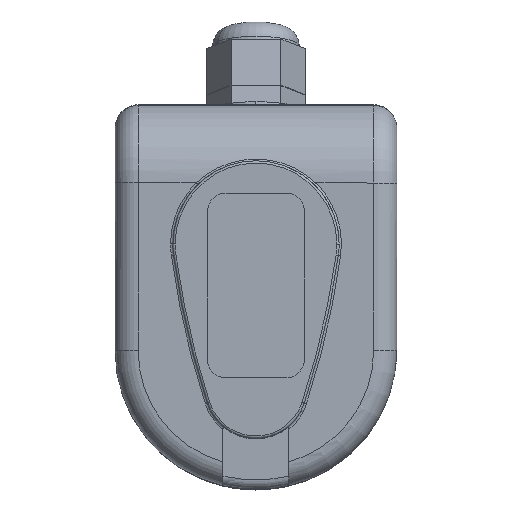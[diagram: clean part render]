
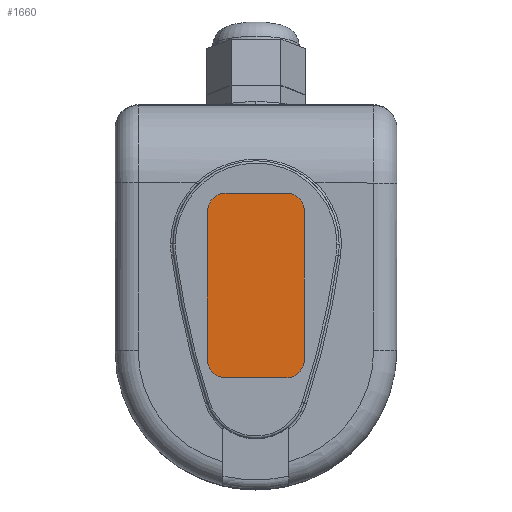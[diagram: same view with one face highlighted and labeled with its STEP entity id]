
A CAD part, front view. The second image highlights one B-rep face of the part: STEP entity #1660.
In plain terms, the highlighted planar face has unit normal (0, -1, 0) as drawn and (1, 0, 0) by its records, which use the part's own axes.
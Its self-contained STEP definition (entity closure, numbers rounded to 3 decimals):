
#311 = LINE ( 'NONE', #4715, #9197 ) ;
#379 = ORIENTED_EDGE ( 'NONE', *, *, #23059, .T. ) ;
#904 = AXIS2_PLACEMENT_3D ( 'NONE', #1098, #13590, #2869 ) ;
#1098 = CARTESIAN_POINT ( 'NONE',  ( 15.7, 55., -24. ) ) ;
#1625 = CARTESIAN_POINT ( 'NONE',  ( 15.7, 59., -37. ) ) ;
#1660 = ADVANCED_FACE ( 'NONE', ( #4020 ), #11415, .F. ) ;
#1780 = ORIENTED_EDGE ( 'NONE', *, *, #21817, .T. ) ;
#1852 = CARTESIAN_POINT ( 'NONE',  ( 15.7, 55., -41. ) ) ;
#2078 = CARTESIAN_POINT ( 'NONE',  ( 15.7, 55., -37. ) ) ;
#2211 = ORIENTED_EDGE ( 'NONE', *, *, #20150, .T. ) ;
#2538 = LINE ( 'NONE', #17293, #16283 ) ;
#2544 = CIRCLE ( 'NONE', #9981, 4. ) ;
#2869 = DIRECTION ( 'NONE',  ( 0., 0., 1. ) ) ;
#3794 = DIRECTION ( 'NONE',  ( 0., 0., 1. ) ) ;
#3876 = DIRECTION ( 'NONE',  ( 0., 0., 1. ) ) ;
#4020 = FACE_OUTER_BOUND ( 'NONE', #13308, .T. ) ;
#4715 = CARTESIAN_POINT ( 'NONE',  ( 15.7, 55., -41. ) ) ;
#5009 = EDGE_CURVE ( 'NONE', #16355, #18150, #2538, .T. ) ;
#5498 = ORIENTED_EDGE ( 'NONE', *, *, #14600, .T. ) ;
#5744 = VERTEX_POINT ( 'NONE', #22051 ) ;
#5922 = DIRECTION ( 'NONE',  ( 0., -1., 0. ) ) ;
#6485 = DIRECTION ( 'NONE',  ( 0., 1., 0. ) ) ;
#6641 = DIRECTION ( 'NONE',  ( 1., 0., 0. ) ) ;
#7177 = VERTEX_POINT ( 'NONE', #1625 ) ;
#7356 = CARTESIAN_POINT ( 'NONE',  ( 15.7, 23., -20. ) ) ;
#7853 = VERTEX_POINT ( 'NONE', #17253 ) ;
#8697 = CIRCLE ( 'NONE', #22697, 4. ) ;
#8703 = CARTESIAN_POINT ( 'NONE',  ( 15.7, 23., -24. ) ) ;
#9197 = VECTOR ( 'NONE', #6485, 1000. ) ;
#9369 = ORIENTED_EDGE ( 'NONE', *, *, #22286, .T. ) ;
#9862 = DIRECTION ( 'NONE',  ( 0., 0., -1. ) ) ;
#9981 = AXIS2_PLACEMENT_3D ( 'NONE', #2078, #14599, #3876 ) ;
#10510 = DIRECTION ( 'NONE',  ( 0., 0., -1. ) ) ;
#11415 = PLANE ( 'NONE',  #18933 ) ;
#12327 = CIRCLE ( 'NONE', #904, 4. ) ;
#13308 = EDGE_LOOP ( 'NONE', ( #20981, #21500, #5498, #1780, #2211, #379, #9369, #17764 ) ) ;
#13590 = DIRECTION ( 'NONE',  ( 1., 0., 0. ) ) ;
#14178 = DIRECTION ( 'NONE',  ( 0., 0., 1. ) ) ;
#14524 = CARTESIAN_POINT ( 'NONE',  ( 15.7, 59., -24. ) ) ;
#14599 = DIRECTION ( 'NONE',  ( 1., 0., 0. ) ) ;
#14600 = EDGE_CURVE ( 'NONE', #18150, #7853, #8697, .T. ) ;
#16283 = VECTOR ( 'NONE', #5922, 1000. ) ;
#16355 = VERTEX_POINT ( 'NONE', #16715 ) ;
#16394 = DIRECTION ( 'NONE',  ( -1., 0., 0. ) ) ;
#16715 = CARTESIAN_POINT ( 'NONE',  ( 15.7, 55., -20. ) ) ;
#17060 = CARTESIAN_POINT ( 'NONE',  ( 15.7, 19., -24. ) ) ;
#17137 = VECTOR ( 'NONE', #9862, 1000. ) ;
#17253 = CARTESIAN_POINT ( 'NONE',  ( 15.7, 19., -24. ) ) ;
#17293 = CARTESIAN_POINT ( 'NONE',  ( 15.7, 55., -20. ) ) ;
#17401 = CARTESIAN_POINT ( 'NONE',  ( 15.7, 23., -37. ) ) ;
#17745 = CARTESIAN_POINT ( 'NONE',  ( 15.7, 59., -24. ) ) ;
#17764 = ORIENTED_EDGE ( 'NONE', *, *, #22250, .T. ) ;
#18002 = VERTEX_POINT ( 'NONE', #17745 ) ;
#18150 = VERTEX_POINT ( 'NONE', #7356 ) ;
#18283 = VERTEX_POINT ( 'NONE', #20066 ) ;
#18933 = AXIS2_PLACEMENT_3D ( 'NONE', #21082, #16394, #14178 ) ;
#19176 = DIRECTION ( 'NONE',  ( 0., 0., 1. ) ) ;
#20066 = CARTESIAN_POINT ( 'NONE',  ( 15.7, 23., -41. ) ) ;
#20150 = EDGE_CURVE ( 'NONE', #5744, #18283, #21790, .T. ) ;
#20340 = AXIS2_PLACEMENT_3D ( 'NONE', #17401, #6641, #19176 ) ;
#20981 = ORIENTED_EDGE ( 'NONE', *, *, #21847, .T. ) ;
#21033 = VECTOR ( 'NONE', #3794, 1000. ) ;
#21082 = CARTESIAN_POINT ( 'NONE',  ( 15.7, 55., -24. ) ) ;
#21279 = DIRECTION ( 'NONE',  ( 1., 0., 0. ) ) ;
#21500 = ORIENTED_EDGE ( 'NONE', *, *, #5009, .T. ) ;
#21601 = LINE ( 'NONE', #14524, #21033 ) ;
#21790 = CIRCLE ( 'NONE', #20340, 4. ) ;
#21817 = EDGE_CURVE ( 'NONE', #7853, #5744, #21901, .T. ) ;
#21847 = EDGE_CURVE ( 'NONE', #18002, #16355, #12327, .T. ) ;
#21901 = LINE ( 'NONE', #17060, #17137 ) ;
#22051 = CARTESIAN_POINT ( 'NONE',  ( 15.7, 19., -37. ) ) ;
#22221 = VERTEX_POINT ( 'NONE', #1852 ) ;
#22250 = EDGE_CURVE ( 'NONE', #7177, #18002, #21601, .T. ) ;
#22286 = EDGE_CURVE ( 'NONE', #22221, #7177, #2544, .T. ) ;
#22697 = AXIS2_PLACEMENT_3D ( 'NONE', #8703, #21279, #10510 ) ;
#23059 = EDGE_CURVE ( 'NONE', #18283, #22221, #311, .T. ) ;
